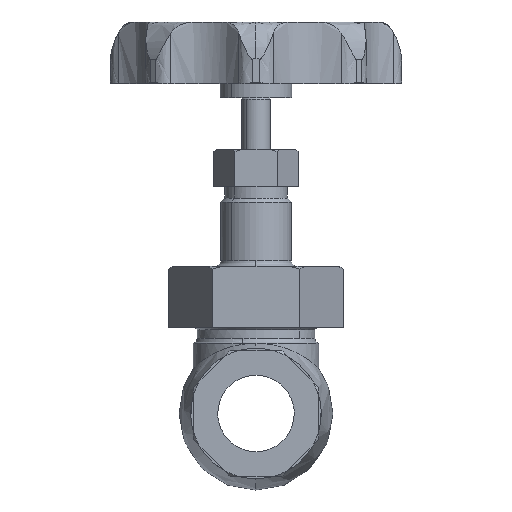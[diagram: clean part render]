
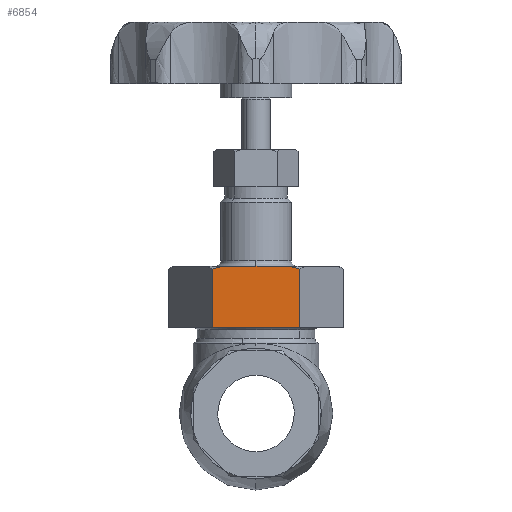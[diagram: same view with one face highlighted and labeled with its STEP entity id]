
A CAD part, left-side view. The second image highlights one B-rep face of the part: STEP entity #6854.
In plain terms, the highlighted free-form (B-spline) face has degree [1, 1] with [2, 2] control points.
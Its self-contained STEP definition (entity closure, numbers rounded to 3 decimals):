
#6512=CARTESIAN_POINT('',(-29.,-16.743,33.));
#6513=VERTEX_POINT('',#6512);
#6519=CARTESIAN_POINT('',(-29.,16.743,33.));
#6520=VERTEX_POINT('',#6519);
#6521=CARTESIAN_POINT('',(-29.,16.743,33.));
#6522=CARTESIAN_POINT('',(-29.,-16.743,33.));
#6523=QUASI_UNIFORM_CURVE('',1,(#6521,#6522),.UNSPECIFIED.,.F.,.U.);
#6524=EDGE_CURVE('',#6520,#6513,#6523,.T.);
#6780=CARTESIAN_POINT('',(-29.,16.743,55.345));
#6781=VERTEX_POINT('',#6780);
#6807=CARTESIAN_POINT('',(-29.,16.743,33.));
#6808=CARTESIAN_POINT('',(-29.,16.743,55.345));
#6809=QUASI_UNIFORM_CURVE('',1,(#6807,#6808),.UNSPECIFIED.,.F.,.U.);
#6810=EDGE_CURVE('',#6520,#6781,#6809,.T.);
#6815=CARTESIAN_POINT('',(-29.,-18.416,31.826));
#6816=CARTESIAN_POINT('',(-29.,-18.416,57.674));
#6817=CARTESIAN_POINT('',(-29.,18.416,31.826));
#6818=CARTESIAN_POINT('',(-29.,18.416,57.674));
#6819=B_SPLINE_SURFACE_WITH_KNOTS('',1,1,((#6815,#6817),(#6816,#6818)),.UNSPECIFIED.,.F.,.F.,.U.,(2,2),(2,2),(0.,25.848),(0.,36.832),.UNSPECIFIED.);
#6820=CARTESIAN_POINT('',(-29.,-16.743,55.345));
#6821=VERTEX_POINT('',#6820);
#6822=CARTESIAN_POINT('',(-29.,-12.263,56.5));
#6823=VERTEX_POINT('',#6822);
#6824=CARTESIAN_POINT('',(-29.,-16.743,55.345));
#6825=CARTESIAN_POINT('',(-29.,-15.262,55.775));
#6826=CARTESIAN_POINT('',(-29.,-13.768,56.16));
#6827=CARTESIAN_POINT('',(-29.,-12.263,56.5));
#6828=B_SPLINE_CURVE_WITH_KNOTS('',3,(#6824,#6825,#6826,#6827),.UNSPECIFIED.,.F.,.U.,(4,4),(0.,4.627),.UNSPECIFIED.);
#6829=EDGE_CURVE('',#6821,#6823,#6828,.T.);
#6830=ORIENTED_EDGE('',*,*,#6829,.T.);
#6831=CARTESIAN_POINT('',(-29.,12.263,56.5));
#6832=VERTEX_POINT('',#6831);
#6833=CARTESIAN_POINT('',(-29.,12.263,56.5));
#6834=CARTESIAN_POINT('',(-29.,-12.263,56.5));
#6835=QUASI_UNIFORM_CURVE('',1,(#6833,#6834),.UNSPECIFIED.,.F.,.U.);
#6836=EDGE_CURVE('',#6832,#6823,#6835,.T.);
#6837=ORIENTED_EDGE('',*,*,#6836,.F.);
#6838=CARTESIAN_POINT('',(-29.,12.263,56.5));
#6839=CARTESIAN_POINT('',(-29.,13.768,56.16));
#6840=CARTESIAN_POINT('',(-29.,15.262,55.775));
#6841=CARTESIAN_POINT('',(-29.,16.743,55.345));
#6842=B_SPLINE_CURVE_WITH_KNOTS('',3,(#6838,#6839,#6840,#6841),.UNSPECIFIED.,.F.,.U.,(4,4),(0.,4.627),.UNSPECIFIED.);
#6843=EDGE_CURVE('',#6832,#6781,#6842,.T.);
#6844=ORIENTED_EDGE('',*,*,#6843,.T.);
#6845=ORIENTED_EDGE('',*,*,#6810,.F.);
#6846=ORIENTED_EDGE('',*,*,#6524,.T.);
#6847=CARTESIAN_POINT('',(-29.,-16.743,33.));
#6848=CARTESIAN_POINT('',(-29.,-16.743,55.345));
#6849=QUASI_UNIFORM_CURVE('',1,(#6847,#6848),.UNSPECIFIED.,.F.,.U.);
#6850=EDGE_CURVE('',#6513,#6821,#6849,.T.);
#6851=ORIENTED_EDGE('',*,*,#6850,.T.);
#6852=EDGE_LOOP('',(#6830,#6837,#6844,#6845,#6846,#6851));
#6853=FACE_OUTER_BOUND('',#6852,.T.);
#6854=ADVANCED_FACE('',(#6853),#6819,.T.);
